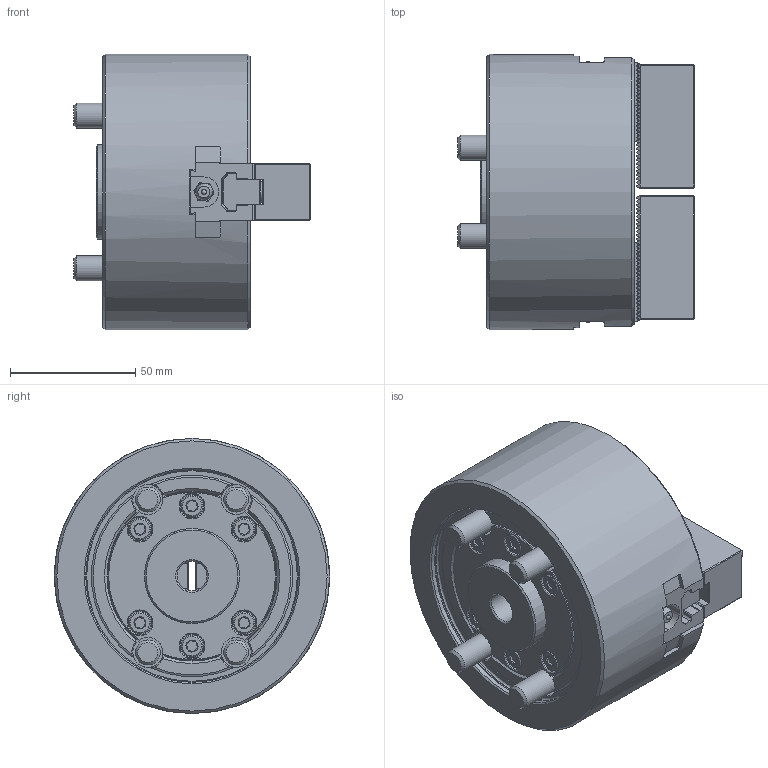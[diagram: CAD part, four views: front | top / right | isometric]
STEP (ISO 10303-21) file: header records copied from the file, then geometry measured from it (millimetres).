
FILE_DESCRIPTION (( 'STEP AP214' ), '1' );
FILE_NAME ('DT1_BT204_OUTSIDE_VIEW_OC.STEP', '2024-05-08T23:14:36', ( '' ), ( '' ), 'SwSTEP 2.0', 'SolidWorks 2022', '' );
FILE_SCHEMA (( 'AUTOMOTIVE_DESIGN' ));
Length unit declared in the file: millimetre
Products named in the file (9): DT1_BT204_SOFTJAW^DT1-BT204_ﾃﾞﾌｫﾙﾄ; DT1_BT204_BASE^DT1-BT204_ﾃﾞﾌｫﾙﾄ; DT1_BT204_COVER^DT1-BT204_ﾃﾞﾌｫﾙﾄ; DT1_BT204_M10x60^DT1-BT204_ﾃﾞﾌｫﾙﾄ; DT1_BT204_M8x20^DT1-BT204_ﾃﾞﾌｫﾙﾄ; DT1_BT204_OUTSIDE_VIEW_OC; DT1_BT204_TNUT^DT1-BT204_ﾃﾞﾌｫﾙﾄ; DT1_BT204_DRAWNUT^DT1-BT204_ﾃﾞﾌｫﾙﾄ; DT1_BT204_M4x8^DT1-BT204_ﾃﾞﾌｫﾙﾄ
Assembly tree (19 placements, depth 2):
  DT1_BT204_OUTSIDE_VIEW_OC
    DT1_BT204_SOFTJAW^DT1-BT204_ﾃﾞﾌｫﾙﾄ  x2
    DT1_BT204_TNUT^DT1-BT204_ﾃﾞﾌｫﾙﾄ  x2
    DT1_BT204_DRAWNUT^DT1-BT204_ﾃﾞﾌｫﾙﾄ
    DT1_BT204_COVER^DT1-BT204_ﾃﾞﾌｫﾙﾄ
    DT1_BT204_BASE^DT1-BT204_ﾃﾞﾌｫﾙﾄ
    DT1_BT204_M4x8^DT1-BT204_ﾃﾞﾌｫﾙﾄ  x4
    DT1_BT204_M8x20^DT1-BT204_ﾃﾞﾌｫﾙﾄ  x4
    DT1_BT204_M10x60^DT1-BT204_ﾃﾞﾌｫﾙﾄ  x4
Bounding box: 94.5 x 110 x 110 mm (x, y, z)
Volume: 548905.5 mm3; surface area: 113394.9 mm2
Topology: 19 solids, 27 shells, 2289 faces, 6304 edges, 4153 vertices
Faces by surface type: plane 1632, cylinder 399, cone 131, bspline 108, torus 15, sphere 4
Full cylindrical faces by diameter (mm): 3.3 x4, 4 x4, 4.5 x4, 6.8 x4, 7.5 x4, 8 x4, 8.5 x8, 8.72 x6, 9.5 x6, 10 x4, 12 x5, 13.27 x4, 13.5 x4, 16.27 x4, 17 x4, 26 x1, 29 x2, 32.5 x1, 35.8 x1, 38 x2, 85 x1, 85.8 x1, 110 x1
Entity records: 61339 total; most frequent: CARTESIAN_POINT 16411, ORIENTED_EDGE 9784, DIRECTION 8167, EDGE_CURVE 4892, LINE 3687, VECTOR 3687, VERTEX_POINT 3290, AXIS2_PLACEMENT_3D 2240
